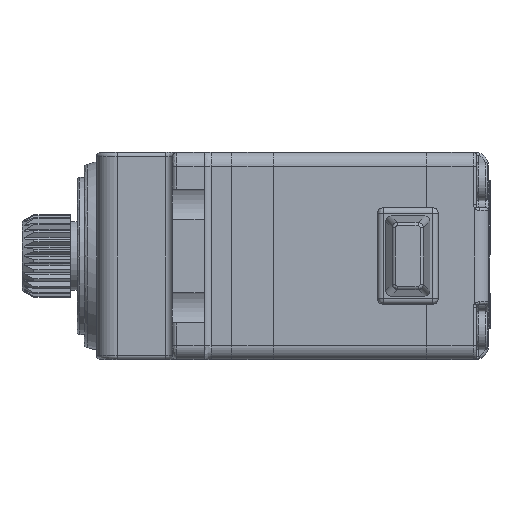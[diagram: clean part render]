
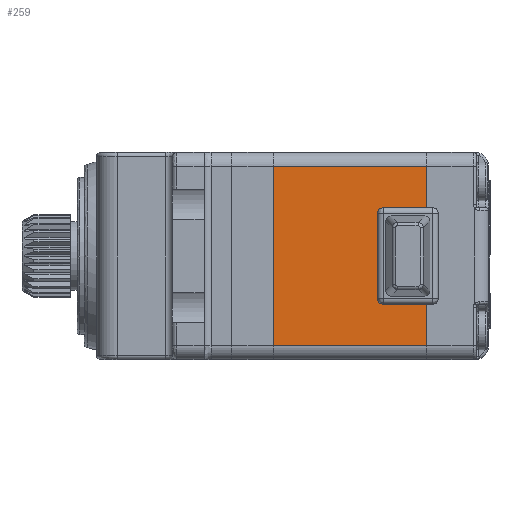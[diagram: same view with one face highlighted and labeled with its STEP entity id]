
A CAD part, left-side view. The second image highlights one B-rep face of the part: STEP entity #259.
In plain terms, the highlighted planar face has unit normal (-1, 0, 0).
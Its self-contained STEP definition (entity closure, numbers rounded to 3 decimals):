
#259 = ADVANCED_FACE ( 'NONE', ( #47698 ), #43090, .T. ) ;
#1218 = ORIENTED_EDGE ( 'NONE', *, *, #14569, .F. ) ;
#1478 = ORIENTED_EDGE ( 'NONE', *, *, #46616, .T. ) ;
#3228 = DIRECTION ( 'NONE',  ( 0., 0., 1. ) ) ;
#4202 = LINE ( 'NONE', #40015, #18968 ) ;
#5034 = ORIENTED_EDGE ( 'NONE', *, *, #43158, .T. ) ;
#6058 = VERTEX_POINT ( 'NONE', #37172 ) ;
#10161 = DIRECTION ( 'NONE',  ( 0., -1., 0. ) ) ;
#11081 = CIRCLE ( 'NONE', #36322, 0.4 ) ;
#11221 = CARTESIAN_POINT ( 'NONE',  ( -9.386, -16.1, 3.5 ) ) ;
#11913 = DIRECTION ( 'NONE',  ( -1., 0., 0. ) ) ;
#12232 = EDGE_CURVE ( 'NONE', #64842, #33989, #56464, .T. ) ;
#12261 = CARTESIAN_POINT ( 'NONE',  ( -9.386, -5., -6.5 ) ) ;
#12322 = VERTEX_POINT ( 'NONE', #42615 ) ;
#12932 = DIRECTION ( 'NONE',  ( 0., 0., 1. ) ) ;
#13350 = CARTESIAN_POINT ( 'NONE',  ( -9.386, -16.1, -6.5 ) ) ;
#13367 = ORIENTED_EDGE ( 'NONE', *, *, #59343, .F. ) ;
#13694 = CARTESIAN_POINT ( 'NONE',  ( -9.386, -12.55, -6.5 ) ) ;
#14317 = EDGE_CURVE ( 'NONE', #39493, #28121, #63313, .T. ) ;
#14569 = EDGE_CURVE ( 'NONE', #64491, #33989, #61628, .T. ) ;
#15008 = DIRECTION ( 'NONE',  ( 0., 1., 0. ) ) ;
#15176 = CARTESIAN_POINT ( 'NONE',  ( -9.386, -12.55, 3.1 ) ) ;
#17020 = ORIENTED_EDGE ( 'NONE', *, *, #14317, .F. ) ;
#18075 = DIRECTION ( 'NONE',  ( -1., 0., 0. ) ) ;
#18968 = VECTOR ( 'NONE', #15008, 1000. ) ;
#19050 = EDGE_CURVE ( 'NONE', #12322, #27969, #11081, .T. ) ;
#19972 = LINE ( 'NONE', #40080, #52060 ) ;
#20145 = ORIENTED_EDGE ( 'NONE', *, *, #60794, .T. ) ;
#20924 = EDGE_CURVE ( 'NONE', #64491, #27631, #23042, .T. ) ;
#21886 = CARTESIAN_POINT ( 'NONE',  ( -9.386, -16.1, -6.5 ) ) ;
#23042 = LINE ( 'NONE', #58232, #24922 ) ;
#23983 = DIRECTION ( 'NONE',  ( 0., 1., 0. ) ) ;
#24191 = DIRECTION ( 'NONE',  ( 0., 0., -1. ) ) ;
#24922 = VECTOR ( 'NONE', #42786, 1000. ) ;
#26968 = VECTOR ( 'NONE', #3228, 1000. ) ;
#27448 = CARTESIAN_POINT ( 'NONE',  ( -9.386, -16.1, -3.5 ) ) ;
#27631 = VERTEX_POINT ( 'NONE', #54428 ) ;
#27969 = VERTEX_POINT ( 'NONE', #15176 ) ;
#28121 = VERTEX_POINT ( 'NONE', #11221 ) ;
#28532 = DIRECTION ( 'NONE',  ( 0., 0., -1. ) ) ;
#28533 = ORIENTED_EDGE ( 'NONE', *, *, #19050, .F. ) ;
#30924 = AXIS2_PLACEMENT_3D ( 'NONE', #56972, #11913, #41841 ) ;
#31378 = DIRECTION ( 'NONE',  ( 0., 0., -1. ) ) ;
#33989 = VERTEX_POINT ( 'NONE', #39214 ) ;
#34114 = ORIENTED_EDGE ( 'NONE', *, *, #20924, .T. ) ;
#35365 = EDGE_LOOP ( 'NONE', ( #17020, #58001, #1478, #39392, #1218, #34114, #13367, #5034, #28533, #20145 ) ) ;
#35747 = VECTOR ( 'NONE', #61694, 1000. ) ;
#36322 = AXIS2_PLACEMENT_3D ( 'NONE', #56704, #47784, #12932 ) ;
#36413 = AXIS2_PLACEMENT_3D ( 'NONE', #58202, #18075, #23983 ) ;
#36455 = VECTOR ( 'NONE', #24191, 1000. ) ;
#37172 = CARTESIAN_POINT ( 'NONE',  ( -9.386, -5., 6.5 ) ) ;
#37660 = EDGE_CURVE ( 'NONE', #39493, #6058, #4202, .T. ) ;
#39214 = CARTESIAN_POINT ( 'NONE',  ( -9.386, -16.1, -6.5 ) ) ;
#39392 = ORIENTED_EDGE ( 'NONE', *, *, #12232, .T. ) ;
#39493 = VERTEX_POINT ( 'NONE', #50475 ) ;
#40015 = CARTESIAN_POINT ( 'NONE',  ( -9.386, -16.1, 6.5 ) ) ;
#40080 = CARTESIAN_POINT ( 'NONE',  ( -9.386, -16.1, 3.5 ) ) ;
#41841 = DIRECTION ( 'NONE',  ( 0., 0., 1. ) ) ;
#42615 = CARTESIAN_POINT ( 'NONE',  ( -9.386, -12.95, 3.5 ) ) ;
#42662 = VECTOR ( 'NONE', #28532, 1000. ) ;
#42683 = CARTESIAN_POINT ( 'NONE',  ( -9.386, -5., -6.5 ) ) ;
#42786 = DIRECTION ( 'NONE',  ( 0., 1., 0. ) ) ;
#43090 = PLANE ( 'NONE',  #36413 ) ;
#43158 = EDGE_CURVE ( 'NONE', #44484, #27969, #48213, .T. ) ;
#44484 = VERTEX_POINT ( 'NONE', #46410 ) ;
#46410 = CARTESIAN_POINT ( 'NONE',  ( -9.386, -12.55, -3.1 ) ) ;
#46616 = EDGE_CURVE ( 'NONE', #6058, #64842, #48266, .T. ) ;
#47698 = FACE_OUTER_BOUND ( 'NONE', #35365, .T. ) ;
#47784 = DIRECTION ( 'NONE',  ( -1., 0., 0. ) ) ;
#48213 = LINE ( 'NONE', #13694, #26968 ) ;
#48266 = LINE ( 'NONE', #42683, #42662 ) ;
#50475 = CARTESIAN_POINT ( 'NONE',  ( -9.386, -16.1, 6.5 ) ) ;
#52060 = VECTOR ( 'NONE', #10161, 1000. ) ;
#52751 = CARTESIAN_POINT ( 'NONE',  ( -9.386, -16.1, -6.5 ) ) ;
#52957 = CIRCLE ( 'NONE', #30924, 0.4 ) ;
#54428 = CARTESIAN_POINT ( 'NONE',  ( -9.386, -12.95, -3.5 ) ) ;
#56464 = LINE ( 'NONE', #21886, #35747 ) ;
#56704 = CARTESIAN_POINT ( 'NONE',  ( -9.386, -12.95, 3.1 ) ) ;
#56972 = CARTESIAN_POINT ( 'NONE',  ( -9.386, -12.95, -3.1 ) ) ;
#58001 = ORIENTED_EDGE ( 'NONE', *, *, #37660, .T. ) ;
#58202 = CARTESIAN_POINT ( 'NONE',  ( -9.386, -16.1, -6.5 ) ) ;
#58232 = CARTESIAN_POINT ( 'NONE',  ( -9.386, -16.1, -3.5 ) ) ;
#59343 = EDGE_CURVE ( 'NONE', #44484, #27631, #52957, .T. ) ;
#60794 = EDGE_CURVE ( 'NONE', #12322, #28121, #19972, .T. ) ;
#61628 = LINE ( 'NONE', #52751, #64777 ) ;
#61694 = DIRECTION ( 'NONE',  ( 0., -1., 0. ) ) ;
#63313 = LINE ( 'NONE', #13350, #36455 ) ;
#64491 = VERTEX_POINT ( 'NONE', #27448 ) ;
#64777 = VECTOR ( 'NONE', #31378, 1000. ) ;
#64842 = VERTEX_POINT ( 'NONE', #12261 ) ;
